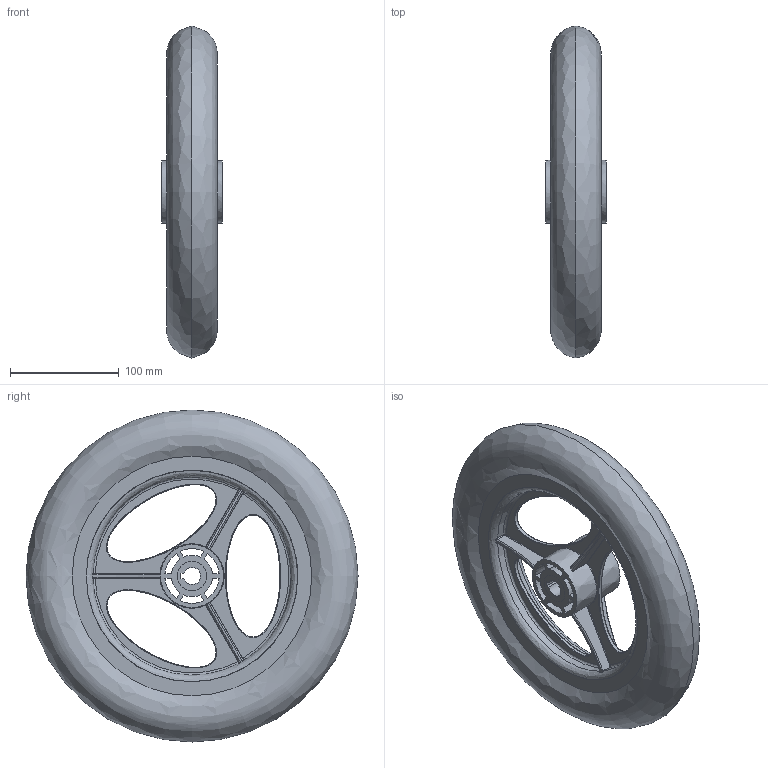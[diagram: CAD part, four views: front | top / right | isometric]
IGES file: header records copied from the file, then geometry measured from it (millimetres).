
Global section: file name: No Iges File Name specified; native system: AutoDesk Inventor R5.0; preprocessor: AutoDesk Inventor Iges Exporter R5.0; author: No Author specified; organization: No Organization specified; date: 20040117.131433; units: inch
Bounding box: 56 x 304.8 x 304.8 mm (x, y, z)
Surface area: 282892.2 mm2 (no closed solid volume)
Topology: 0 solids, 0 shells, 233 faces, 1036 edges, 994 vertices
Faces by surface type: bspline 105, revolution 87, plane 41
